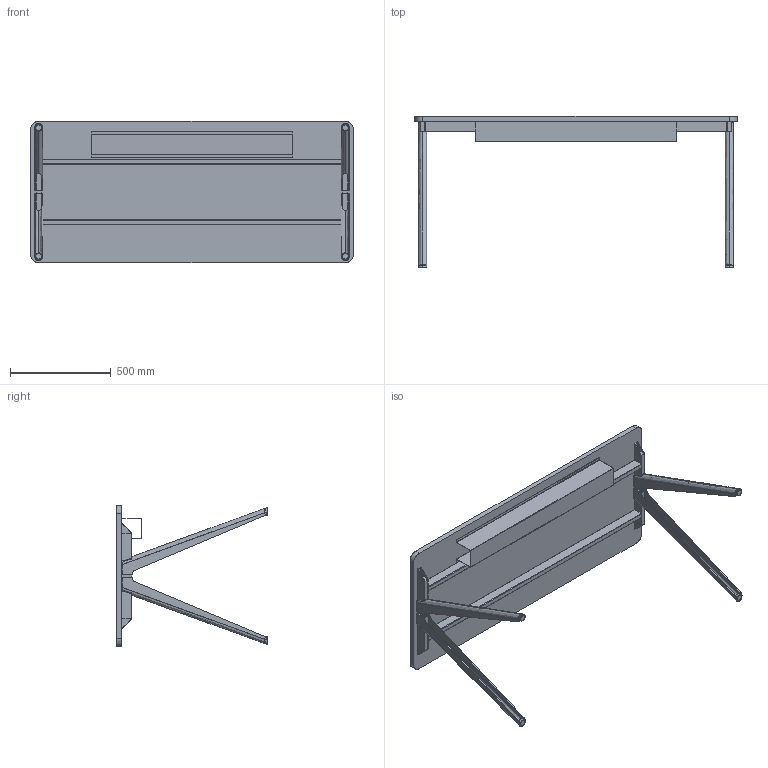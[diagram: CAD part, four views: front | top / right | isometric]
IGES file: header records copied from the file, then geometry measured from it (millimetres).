
Start section: SolidWorks IGES file using analytic representation for surfaces
Global section: file name: C:\Users\simone.cerana\OneDrive - Gruppo Tecno\Desktop\CHINA\DISEGNI DI SERIE\ASSIEMI LISTINO\HORIZON LISTINO\FULL OPTIONAL\HO1607ST.IGS; native system: SolidWorks 2024; preprocessor: SolidWorks 2024; author: simone.cerana; date: 260512.144320; units: millimetre
Bounding box: 1600 x 750.58 x 700 mm (x, y, z)
Surface area: 4157578.4 mm2 (no closed solid volume)
Topology: 0 solids, 0 shells, 292 faces, 3808 edges, 3808 vertices
Faces by surface type: bspline 198, revolution 94
